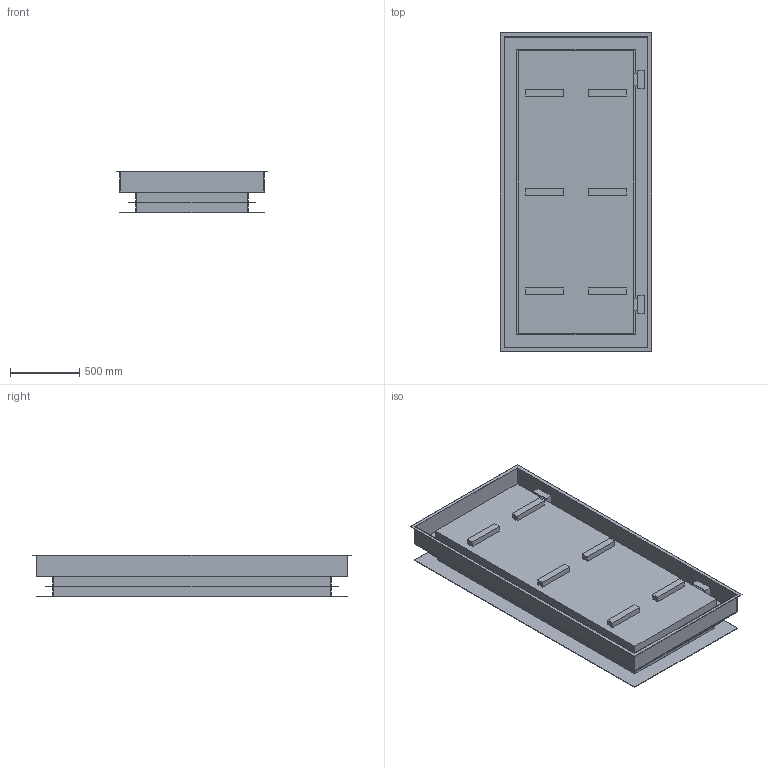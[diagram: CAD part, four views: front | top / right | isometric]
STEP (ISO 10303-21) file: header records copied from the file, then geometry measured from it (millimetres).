
FILE_DESCRIPTION((''),'2;1');
FILE_NAME('51349431','2019-04-12T',('ka'),('HUBER SE'),'PRO/ENGINEER BY PARAMETRIC TECHNOLOGY CORPORATION, 2017170','PRO/ENGINEER BY PARAMETRIC TECHNOLOGY CORPORATION, 2017170','');
FILE_SCHEMA(('AUTOMOTIVE_DESIGN { 1 0 10303 214 1 1 1 1 }'));
Length unit declared in the file: millimetre
Products named in the file (1): 51349431
Bounding box: 1090 x 2290 x 300 mm (x, y, z)
Volume: 178235544 mm3; surface area: 11854528 mm2
Topology: 1 solids, 1 shells, 129 faces, 312 edges, 208 vertices
Faces by surface type: plane 129
Entity records: 4979 total; most frequent: CARTESIAN_POINT 651, ORIENTED_EDGE 624, DIRECTION 570, VECTOR 312, LINE 312, EDGE_CURVE 312, VERTEX_POINT 208, EDGE_LOOP 156
